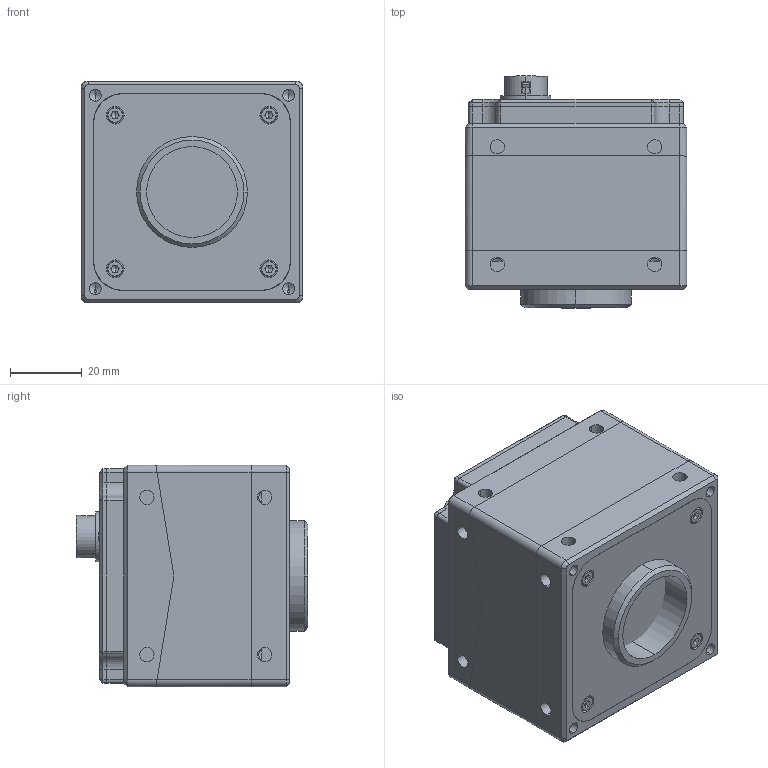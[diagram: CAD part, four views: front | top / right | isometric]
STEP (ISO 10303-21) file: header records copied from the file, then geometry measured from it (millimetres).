
FILE_DESCRIPTION (( 'STEP AP203' ), '1' );
FILE_NAME ('mars_5g_user_s1.0.0.STEP', '2020-03-16T10:16:36', ( '' ), ( '' ), 'SwSTEP 2.0', 'SolidWorks 2016', '' );
FILE_SCHEMA (( 'CONFIG_CONTROL_DESIGN' ));
Products named in the file (1): mars_5g_user_s1.0.0
Bounding box: 62 x 64.8 x 62 mm (x, y, z)
Surface area: 73167.8 mm2
Topology: 59 solids, 85 shells, 4657 faces, 12204 edges, 7767 vertices
Faces by surface type: plane 2514, cylinder 1178, cone 775, bspline 116, torus 42, sphere 32
Entity records: 145025 total; most frequent: CARTESIAN_POINT 28697, DIRECTION 24307, ORIENTED_EDGE 24290, EDGE_CURVE 12145, LINE 8293, VECTOR 8293, AXIS2_PLACEMENT_3D 8007, VERTEX_POINT 7767
